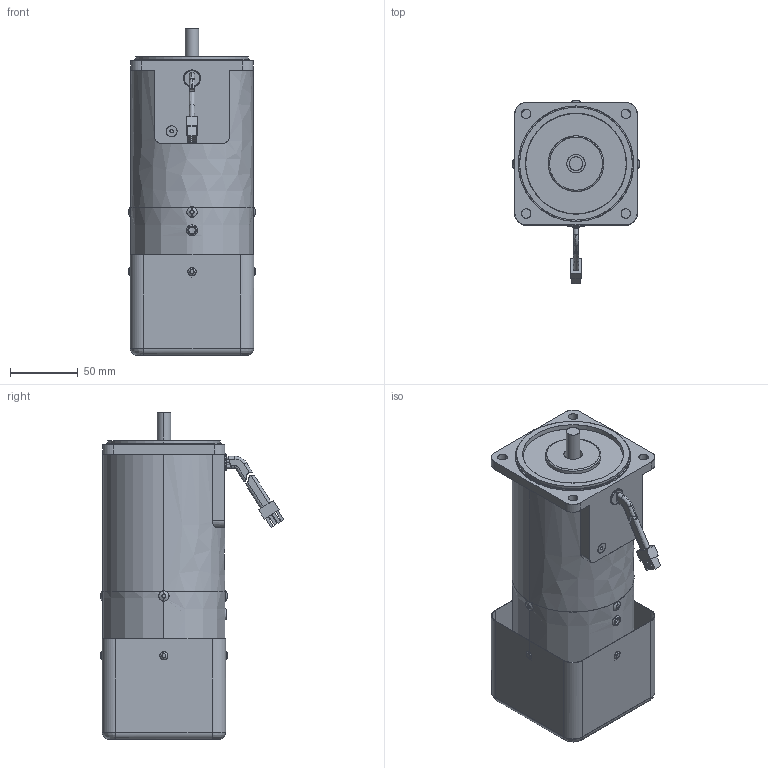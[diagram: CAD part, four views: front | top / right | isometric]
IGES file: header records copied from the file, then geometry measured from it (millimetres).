
Start section: SolidWorks IGES file using analytic representation for surfaces
Global section: file name: \\楷备家烹钦辑滚\data (D)\档搁 枚\权其捞瘤 档搁\9. SPEED BRAKE\90\90W\(9-79) 9SBDG∴-90F2H.IGS; native system: SolidWorks 2007; preprocessor: SolidWorks 2007; author: user; date: 150723.140132; units: millimetre
Bounding box: 94 x 135.4 x 240.5 mm (x, y, z)
Surface area: 221092 mm2 (no closed solid volume)
Topology: 0 solids, 0 shells, 462 faces, 9196 edges, 9196 vertices
Faces by surface type: revolution 286, bspline 176
